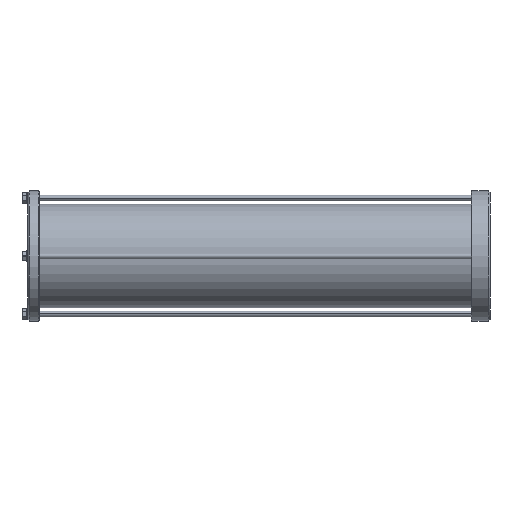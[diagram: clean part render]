
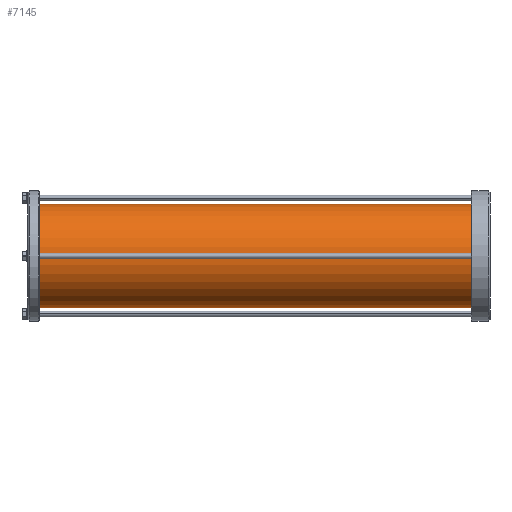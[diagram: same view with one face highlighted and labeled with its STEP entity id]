
A CAD part, left-side view. The second image highlights one B-rep face of the part: STEP entity #7145.
In plain terms, the highlighted cylindrical face has radius 55 mm (diameter 110 mm), a partial arc.
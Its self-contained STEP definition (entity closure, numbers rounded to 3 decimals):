
#5177 = VERTEX_POINT ( 'NONE', #79605 ) ;
#6801 = DIRECTION ( 'NONE',  ( 0., 1., 0. ) ) ;
#7145 = ADVANCED_FACE ( 'NONE', ( #17861 ), #41472, .T. ) ;
#9951 = VERTEX_POINT ( 'NONE', #80998 ) ;
#11337 = CARTESIAN_POINT ( 'NONE',  ( 40.045, 492.458, 46.617 ) ) ;
#11999 = AXIS2_PLACEMENT_3D ( 'NONE', #87168, #6801, #42132 ) ;
#15122 = EDGE_CURVE ( 'NONE', #112751, #9951, #93501, .T. ) ;
#15483 = EDGE_LOOP ( 'NONE', ( #24255, #89803, #40968, #105987 ) ) ;
#16478 = CARTESIAN_POINT ( 'NONE',  ( 40.045, 492.458, 156.617 ) ) ;
#17861 = FACE_OUTER_BOUND ( 'NONE', #15483, .T. ) ;
#24255 = ORIENTED_EDGE ( 'NONE', *, *, #31239, .F. ) ;
#27494 = DIRECTION ( 'NONE',  ( 0., -1., 0. ) ) ;
#27832 = AXIS2_PLACEMENT_3D ( 'NONE', #101336, #27494, #83267 ) ;
#28046 = AXIS2_PLACEMENT_3D ( 'NONE', #77969, #103813, #86370 ) ;
#29932 = CIRCLE ( 'NONE', #28046, 55. ) ;
#30474 = DIRECTION ( 'NONE',  ( 0., -1., 0. ) ) ;
#31239 = EDGE_CURVE ( 'NONE', #5177, #82157, #114929, .T. ) ;
#31485 = EDGE_CURVE ( 'NONE', #9951, #82157, #117414, .T. ) ;
#40968 = ORIENTED_EDGE ( 'NONE', *, *, #15122, .T. ) ;
#41472 = CYLINDRICAL_SURFACE ( 'NONE', #27832, 55. ) ;
#42132 = DIRECTION ( 'NONE',  ( 0., 0., 1. ) ) ;
#52781 = CARTESIAN_POINT ( 'NONE',  ( 40.045, 26.458, 156.617 ) ) ;
#54054 = VECTOR ( 'NONE', #60284, 1000. ) ;
#60284 = DIRECTION ( 'NONE',  ( 0., -1., 0. ) ) ;
#77969 = CARTESIAN_POINT ( 'NONE',  ( 40.045, 492.458, 101.617 ) ) ;
#79442 = VECTOR ( 'NONE', #30474, 1000. ) ;
#79605 = CARTESIAN_POINT ( 'NONE',  ( 40.045, 492.458, 156.617 ) ) ;
#80998 = CARTESIAN_POINT ( 'NONE',  ( 40.045, 26.458, 46.617 ) ) ;
#82157 = VERTEX_POINT ( 'NONE', #52781 ) ;
#83267 = DIRECTION ( 'NONE',  ( 0., 0., -1. ) ) ;
#86370 = DIRECTION ( 'NONE',  ( 0., 0., 1. ) ) ;
#87168 = CARTESIAN_POINT ( 'NONE',  ( 40.045, 26.458, 101.617 ) ) ;
#89803 = ORIENTED_EDGE ( 'NONE', *, *, #111345, .F. ) ;
#93501 = LINE ( 'NONE', #11337, #79442 ) ;
#101336 = CARTESIAN_POINT ( 'NONE',  ( 40.045, 492.458, 101.617 ) ) ;
#101816 = CARTESIAN_POINT ( 'NONE',  ( 40.045, 492.458, 46.617 ) ) ;
#103813 = DIRECTION ( 'NONE',  ( 0., 1., 0. ) ) ;
#105987 = ORIENTED_EDGE ( 'NONE', *, *, #31485, .T. ) ;
#111345 = EDGE_CURVE ( 'NONE', #112751, #5177, #29932, .T. ) ;
#112751 = VERTEX_POINT ( 'NONE', #101816 ) ;
#114929 = LINE ( 'NONE', #16478, #54054 ) ;
#117414 = CIRCLE ( 'NONE', #11999, 55. ) ;
